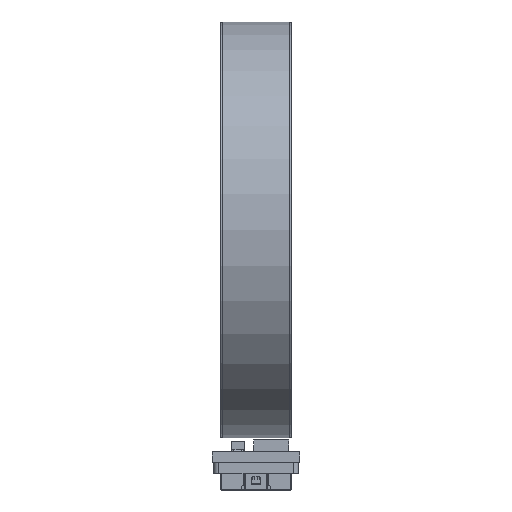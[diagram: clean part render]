
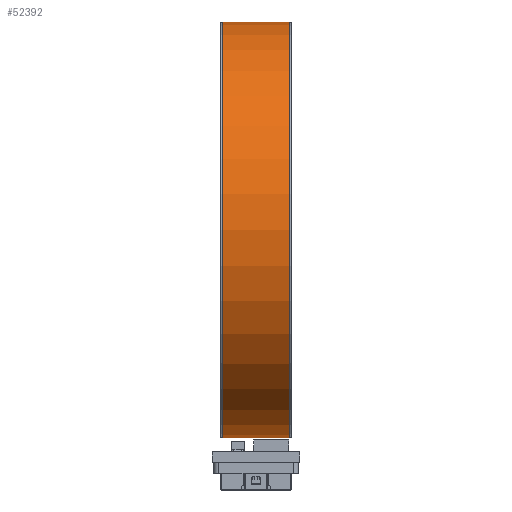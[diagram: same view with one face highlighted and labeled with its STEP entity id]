
A CAD part, left-side view. The second image highlights one B-rep face of the part: STEP entity #52392.
In plain terms, the highlighted cylindrical face has radius 40.526 mm (diameter 81.052 mm), a partial arc.
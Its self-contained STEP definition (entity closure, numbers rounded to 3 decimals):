
#364 = CARTESIAN_POINT ( 'NONE',  ( 0., 13.5, 0. ) ) ;
#2169 = EDGE_CURVE ( 'NONE', #61277, #3237, #75883, .T. ) ;
#3237 = VERTEX_POINT ( 'NONE', #31225 ) ;
#3244 = CARTESIAN_POINT ( 'NONE',  ( 0., 0., -40.526 ) ) ;
#4532 = DIRECTION ( 'NONE',  ( 0., -1., 0. ) ) ;
#11037 = AXIS2_PLACEMENT_3D ( 'NONE', #364, #37437, #15036 ) ;
#11314 = DIRECTION ( 'NONE',  ( 0., 0., -1. ) ) ;
#11765 = CIRCLE ( 'NONE', #32124, 40.526 ) ;
#13867 = EDGE_CURVE ( 'NONE', #61277, #44576, #58924, .T. ) ;
#14533 = EDGE_LOOP ( 'NONE', ( #66331, #21407, #71823, #51745 ) ) ;
#15036 = DIRECTION ( 'NONE',  ( 0., 0., -1. ) ) ;
#16033 = DIRECTION ( 'NONE',  ( 0., -1., 0. ) ) ;
#21407 = ORIENTED_EDGE ( 'NONE', *, *, #2169, .T. ) ;
#22303 = CARTESIAN_POINT ( 'NONE',  ( 0., 0.5, 0. ) ) ;
#27482 = DIRECTION ( 'NONE',  ( 0., 0., -1. ) ) ;
#27776 = CARTESIAN_POINT ( 'NONE',  ( 0., 0.5, 40.526 ) ) ;
#31225 = CARTESIAN_POINT ( 'NONE',  ( 0., 13.5, -40.526 ) ) ;
#32124 = AXIS2_PLACEMENT_3D ( 'NONE', #22303, #46643, #27482 ) ;
#33620 = EDGE_CURVE ( 'NONE', #3237, #42594, #75007, .T. ) ;
#34043 = CARTESIAN_POINT ( 'NONE',  ( 0., 0., 0. ) ) ;
#34604 = DIRECTION ( 'NONE',  ( 0., -1., 0. ) ) ;
#36825 = VECTOR ( 'NONE', #16033, 1000. ) ;
#37437 = DIRECTION ( 'NONE',  ( 0., -1., 0. ) ) ;
#39628 = CYLINDRICAL_SURFACE ( 'NONE', #62504, 40.526 ) ;
#42594 = VERTEX_POINT ( 'NONE', #49847 ) ;
#44576 = VERTEX_POINT ( 'NONE', #27776 ) ;
#46185 = CARTESIAN_POINT ( 'NONE',  ( 0., 0., 40.526 ) ) ;
#46643 = DIRECTION ( 'NONE',  ( 0., -1., 0. ) ) ;
#47662 = VECTOR ( 'NONE', #34604, 1000. ) ;
#49847 = CARTESIAN_POINT ( 'NONE',  ( 0., 0.5, -40.526 ) ) ;
#51745 = ORIENTED_EDGE ( 'NONE', *, *, #73455, .F. ) ;
#52392 = ADVANCED_FACE ( 'NONE', ( #69913 ), #39628, .T. ) ;
#58924 = LINE ( 'NONE', #46185, #47662 ) ;
#61277 = VERTEX_POINT ( 'NONE', #62296 ) ;
#62296 = CARTESIAN_POINT ( 'NONE',  ( 0., 13.5, 40.526 ) ) ;
#62504 = AXIS2_PLACEMENT_3D ( 'NONE', #34043, #4532, #11314 ) ;
#66331 = ORIENTED_EDGE ( 'NONE', *, *, #13867, .F. ) ;
#69913 = FACE_OUTER_BOUND ( 'NONE', #14533, .T. ) ;
#71823 = ORIENTED_EDGE ( 'NONE', *, *, #33620, .T. ) ;
#73455 = EDGE_CURVE ( 'NONE', #44576, #42594, #11765, .T. ) ;
#75007 = LINE ( 'NONE', #3244, #36825 ) ;
#75883 = CIRCLE ( 'NONE', #11037, 40.526 ) ;
